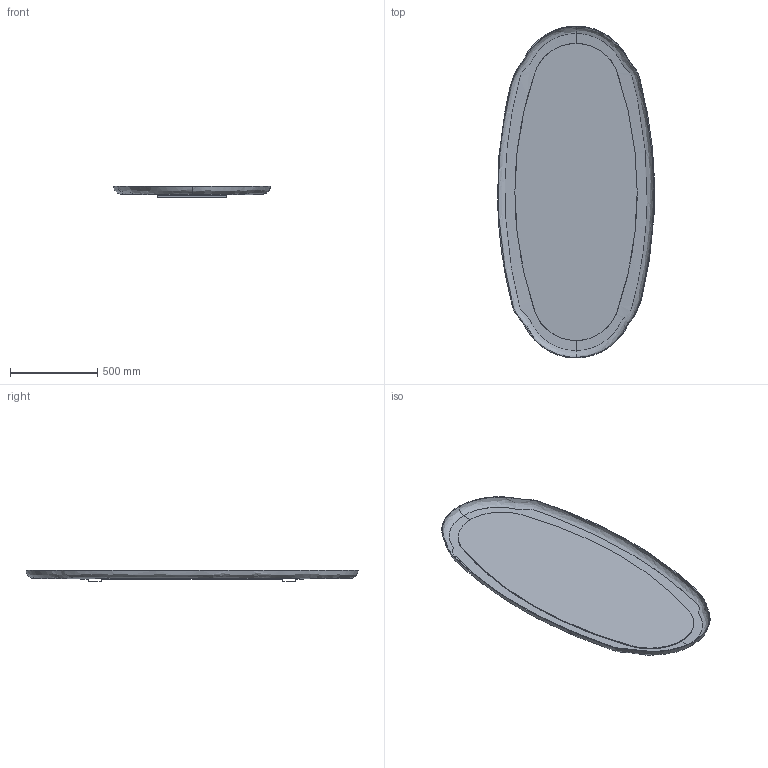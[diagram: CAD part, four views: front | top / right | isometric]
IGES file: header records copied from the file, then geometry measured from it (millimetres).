
Start section: SolidWorks IGES file using analytic representation for surfaces
Global section: file name: Y:\eforma\TECNICO\SOLIDWORKS\E-FORMA\4-SPECCHI\MATISSE\08 modelli 3D web\MAT02_Matisse_90x190.IGS; native system: SolidWorks 2022; preprocessor: SolidWorks 2022; author: eforma.tech; date: 240802.110618; units: millimetre
Bounding box: 898.69 x 1900 x 66.5 mm (x, y, z)
Volume: 10708748.4 mm3; surface area: 6064684.8 mm2
Topology: 3 solids, 3 shells, 157 faces, 369 edges, 211 vertices
Faces by surface type: plane 99, revolution 50, bspline 8
